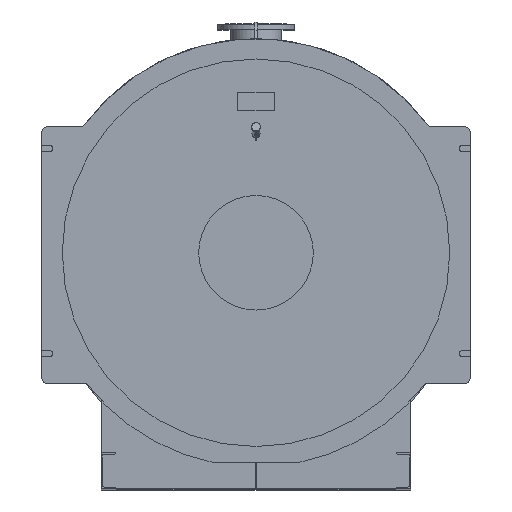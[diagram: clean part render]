
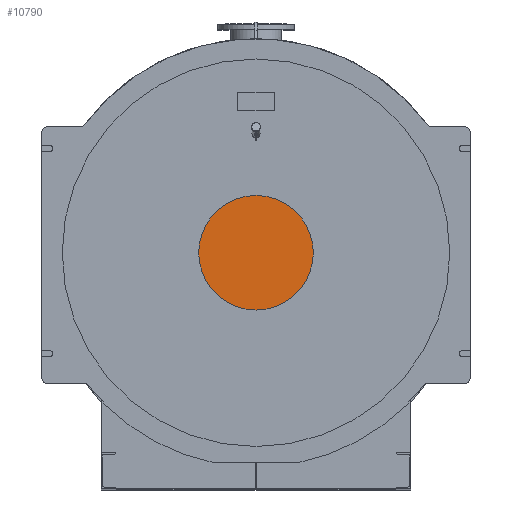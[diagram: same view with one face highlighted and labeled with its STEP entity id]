
A CAD part, top view. The second image highlights one B-rep face of the part: STEP entity #10790.
In plain terms, the highlighted planar face has unit normal (0, 0, 1).
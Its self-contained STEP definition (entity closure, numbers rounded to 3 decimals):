
#542=PLANE('',#11874);
#1092=FACE_OUTER_BOUND('',#1691,.T.);
#1691=EDGE_LOOP('',(#9473));
#2181=CIRCLE('',#11875,250.);
#4987=VERTEX_POINT('',#18432);
#6486=EDGE_CURVE('',#4987,#4987,#2181,.T.);
#9473=ORIENTED_EDGE('',*,*,#6486,.F.);
#10790=ADVANCED_FACE('',(#1092),#542,.T.);
#11874=AXIS2_PLACEMENT_3D('',#18431,#14908,#14909);
#11875=AXIS2_PLACEMENT_3D('',#18433,#14910,#14911);
#14908=DIRECTION('center_axis',(0.,0.,1.));
#14909=DIRECTION('ref_axis',(1.,0.,0.));
#14910=DIRECTION('center_axis',(0.,0.,-1.));
#14911=DIRECTION('ref_axis',(1.,0.,0.));
#18431=CARTESIAN_POINT('Origin',(0.,0.,2674.));
#18432=CARTESIAN_POINT('',(-250.,0.,2674.));
#18433=CARTESIAN_POINT('Origin',(0.,0.,2674.));
